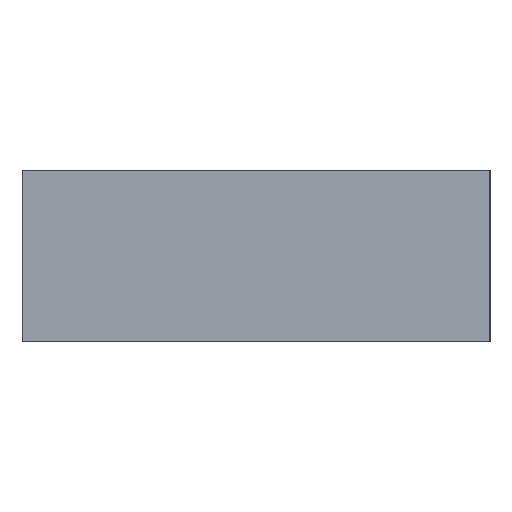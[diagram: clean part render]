
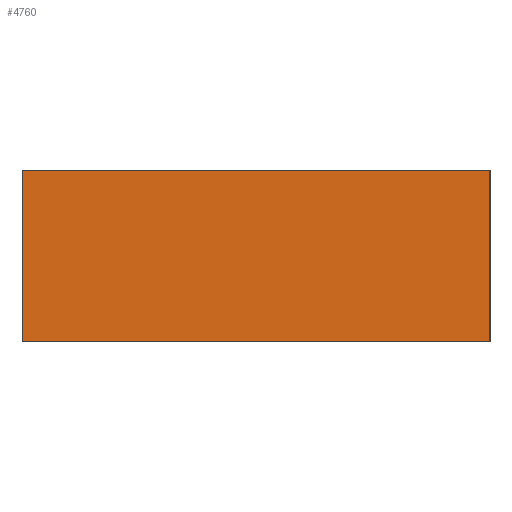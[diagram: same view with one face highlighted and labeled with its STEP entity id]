
A CAD part, left-side view. The second image highlights one B-rep face of the part: STEP entity #4760.
In plain terms, the highlighted planar face has unit normal (-1, 0, 0).
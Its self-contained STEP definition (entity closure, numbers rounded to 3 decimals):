
#10=DIRECTION('',(0.,-1.,0.));
#11=VECTOR('',#10,3.);
#12=CARTESIAN_POINT('',(-20.307,140.48,0.));
#13=LINE('',#12,#11);
#1004=DIRECTION('',(0.,0.,-1.));
#1005=VECTOR('',#1004,1.1);
#1006=CARTESIAN_POINT('',(-20.307,140.48,0.));
#1007=LINE('',#1006,#1005);
#1008=DIRECTION('',(0.,0.,-1.));
#1009=VECTOR('',#1008,1.1);
#1010=CARTESIAN_POINT('',(-20.307,137.48,0.));
#1011=LINE('',#1010,#1009);
#1020=DIRECTION('',(0.,-1.,0.));
#1021=VECTOR('',#1020,3.);
#1022=CARTESIAN_POINT('',(-20.307,140.48,-1.1));
#1023=LINE('',#1022,#1021);
#3122=CARTESIAN_POINT('',(-20.307,140.48,0.));
#3123=VERTEX_POINT('',#3122);
#3124=CARTESIAN_POINT('',(-20.307,137.48,0.));
#3125=VERTEX_POINT('',#3124);
#3130=CARTESIAN_POINT('',(-20.307,140.48,-1.1));
#3131=VERTEX_POINT('',#3130);
#3132=CARTESIAN_POINT('',(-20.307,137.48,-1.1));
#3133=VERTEX_POINT('',#3132);
#4747=CARTESIAN_POINT('',(-20.307,140.48,0.));
#4748=DIRECTION('',(-1.,0.,0.));
#4749=DIRECTION('',(0.,-1.,0.));
#4750=AXIS2_PLACEMENT_3D('',#4747,#4748,#4749);
#4751=PLANE('',#4750);
#4752=ORIENTED_EDGE('',*,*,#4159,.T.);
#4754=ORIENTED_EDGE('',*,*,#4753,.T.);
#4756=ORIENTED_EDGE('',*,*,#4755,.F.);
#4757=ORIENTED_EDGE('',*,*,#4739,.F.);
#4758=EDGE_LOOP('',(#4752,#4754,#4756,#4757));
#4759=FACE_OUTER_BOUND('',#4758,.F.);
#4760=ADVANCED_FACE('',(#4759),#4751,.T.);
#4159=EDGE_CURVE('',#3123,#3125,#13,.T.);
#4739=EDGE_CURVE('',#3123,#3131,#1007,.T.);
#4753=EDGE_CURVE('',#3125,#3133,#1011,.T.);
#4755=EDGE_CURVE('',#3131,#3133,#1023,.T.);
